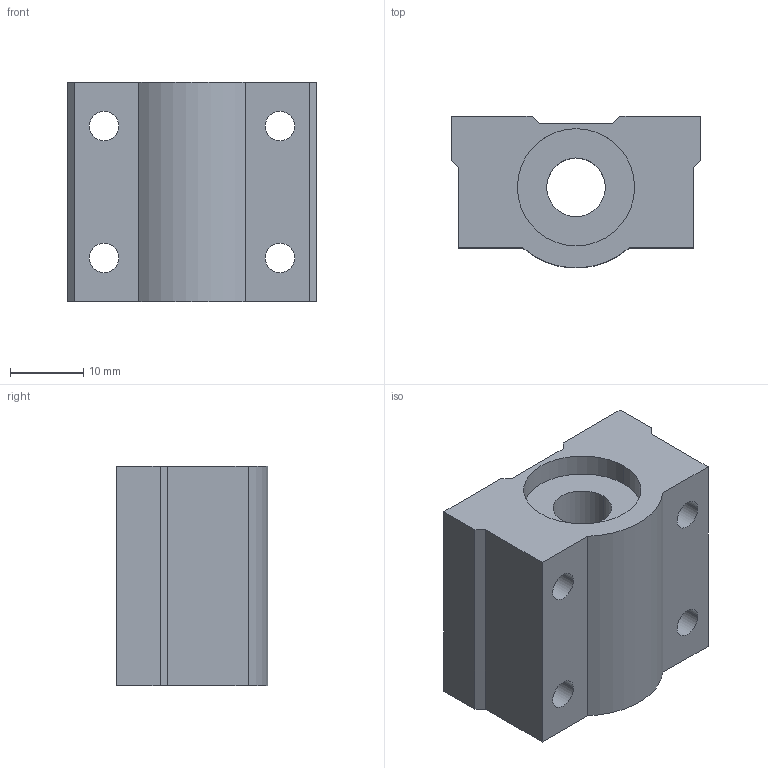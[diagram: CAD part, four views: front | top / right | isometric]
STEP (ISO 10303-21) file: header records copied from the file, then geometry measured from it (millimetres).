
FILE_DESCRIPTION((''),'2;1');
FILE_NAME('C:\Documents and Settings\ｿﾀﾀ蠑ｷ1\ｹﾙﾅﾁ ﾈｭｸ饅\ｺﾎﾇｰﾆﾄﾀﾏ\ﾁｦﾇｰ\SC__UUN\SC8UUN.stp','2005-06-17T09:10:13',('ｿﾀﾀ蠑ｷ1'),(''),'Autodesk Inventor 9','Autodesk Inventor 9','');
FILE_SCHEMA(('AUTOMOTIVE_DESIGN { 1 0 10303 214 1 1 1 1 }'));
Length unit declared in the file: millimetre
Products named in the file (1): SC__UUN
Bounding box: 34 x 20.69 x 30 mm (x, y, z)
Volume: 14833.3 mm3; surface area: 5967.9 mm2
Topology: 1 solids, 1 shells, 32 faces, 84 edges, 56 vertices
Faces by surface type: plane 17, bspline 8, cylinder 7
Entity records: 1145 total; most frequent: CARTESIAN_POINT 309, ORIENTED_EDGE 168, DIRECTION 164, EDGE_CURVE 84, VERTEX_POINT 56, AXIS2_PLACEMENT_3D 55, VECTOR 54, LINE 54
